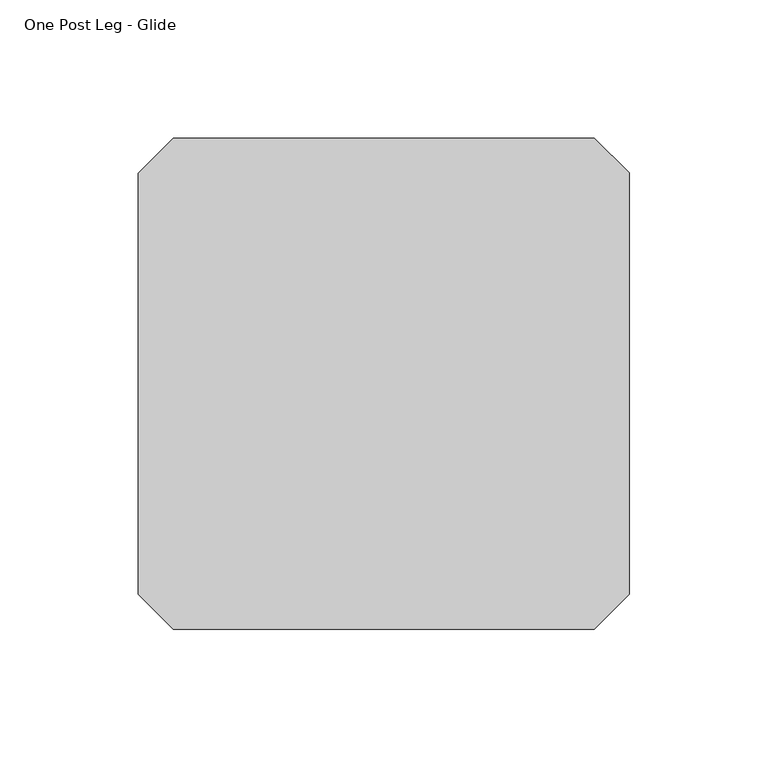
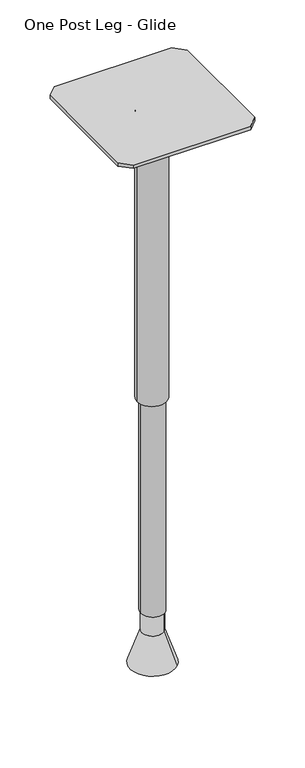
"""IFC4 building model written with IfcOpenShell, lengths in millimetres: furniture geometry, Steelcase - Groupwork - Table Leg - Post - Adjustable : One Post Leg - Glide."""

from ifc_helpers import new_model, si_unit, point, frame, frame_2d, origin, place, context, project, spatial, polyline, circle_curve, trimmed, segment, composite_curve, outline, extrude, source, transform, mapped, element, save
from ifc_brep_helpers import plane_surface, cylinder_surface, revolved_surface, advanced_brep


def one_post_leg_glide_20b29ec5(model_context):
    return source(origin(), model_context, "Body", "SolidModel", [
        extrude(outline(polyline([(88.8999907, -92.0423469), (76.2000028, -104.7423348), (-76.2000028, -104.7423348), (-88.9000032, -92.0423469), (-88.9000032, 60.3576588), (-76.2000028, 73.0576592), (76.2000028, 73.0576592), (88.8999907, 60.4556951), (88.8999907, -92.0423469)])), frame((0.0, 0.0, 757.4939814), z_axis=(0.0, 0.0, 1.0), x_axis=(1.0, 0.0, 0.0)), (0.0, 0.0, 1.0), 4.5060186),
        extrude(outline(composite_curve([segment(trimmed(circle_curve(frame_2d((-0.2500277, -14.7678046)), 19.05), [point((-19.3000277, -14.7678046))], [point((18.7999723, -14.7678046))], False, "CARTESIAN"), True, "CONTINUOUS"), segment(trimmed(circle_curve(frame_2d((-0.2500277, -14.7678046)), 19.05), [point((18.7999723, -14.7678046))], [point((-19.3000277, -14.7678046))], False, "CARTESIAN"), True, "CONTINUOUS")], self_intersect=False), holes=[composite_curve([segment(trimmed(circle_curve(frame_2d((-0.1070578, -14.7678046)), 16.7347744), [point((-16.8418322, -14.7678046))], [point((16.6277167, -14.7678046))], True, "CARTESIAN"), True, "CONTINUOUS"), segment(trimmed(circle_curve(frame_2d((-0.1070578, -14.7678046)), 16.7347744), [point((16.6277167, -14.7678046))], [point((-16.8418322, -14.7678046))], True, "CARTESIAN"), True, "CONTINUOUS")], self_intersect=False)]), frame((0.0, 0.0, 362.839), z_axis=(0.0, 0.0, 1.0), x_axis=(1.0, 0.0, 0.0)), (0.0, 0.0, 1.0), 394.6549814),
        advanced_brep(
        [(9.6968599, -25.4901858, 71.9077843), (-9.6968599, -6.096466, 71.9077843), (0.0, -15.7933259, 71.9077843), (9.6968599, -25.4901858, 44.5081099), (-9.6968599, -6.096466, 44.5081099), (20.454658, -36.2479839, 0.0), (-20.454658, 4.6613321, 0.0), (0.0, -15.7933259, 0.0)],
        [
            (0, 1, circle_curve(frame((0.0, -15.7933259, 71.9077843), z_axis=(0.0, 0.0, 1.0), x_axis=(-0.7071067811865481, 0.707106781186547, 0.0)), 13.7134307)),
            (1, 2),
            (2, 0),
            (1, 0, circle_curve(frame((0.0, -15.7933259, 71.9077843), z_axis=(0.0, 0.0, 1.0), x_axis=(-0.7071067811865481, 0.707106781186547, 0.0)), 13.7134307)),
            (3, 4, circle_curve(frame((0.0, -15.7933259, 44.5081099), z_axis=(0.0, 0.0, 1.0), x_axis=(-0.7071067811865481, 0.707106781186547, 0.0)), 13.7134307)),
            (4, 1),
            (0, 3),
            (4, 3, circle_curve(frame((0.0, -15.7933259, 44.5081099), z_axis=(0.0, 0.0, 1.0), x_axis=(-0.7071067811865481, 0.707106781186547, 0.0)), 13.7134307)),
            (5, 6, circle_curve(frame((0.0, -15.7933259, 0.0), z_axis=(0.0, 0.0, 1.0), x_axis=(-0.7071067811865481, 0.707106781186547, 0.0)), 28.9272548)),
            (6, 4),
            (3, 5),
            (6, 5, circle_curve(frame((0.0, -15.7933259, 0.0), z_axis=(0.0, 0.0, 1.0), x_axis=(-0.7071067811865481, 0.707106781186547, 0.0)), 28.9272548)),
            (7, 6),
            (5, 7),
        ],
        [
            plane_surface(frame((0.0, -15.7933259, 71.9077843), z_axis=(0.0, 0.0, 1.0000000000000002), x_axis=(-0.7071067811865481, 0.707106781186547, 0.0))),
            cylinder_surface(frame((0.0, -15.7933259, 71.9077843), z_axis=(0.0, 0.0, -1.0), x_axis=(-0.7071067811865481, 0.707106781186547, 0.0)), 13.7134307),
            revolved_surface(polyline([(-9.6968599, -6.096466, 44.5081099), (-20.454658, 4.6613321, 0.0)]), (0.0, -15.7933259, 71.9077843), (0.0, 0.0, -1.0)),
            plane_surface(frame((0.0, -15.7933259, 0.0), z_axis=(0.0, 0.0, -1.0000000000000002), x_axis=(-0.7071067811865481, 0.707106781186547, 0.0))),
        ],
        [
            (0, [[1, 2, 3]]),
            (0, [[4, -3, -2]]),
            (1, [[5, 6, -1, 7]]),
            (1, [[8, -7, -4, -6]]),
            (2, [[9, 10, -5, 11]]),
            (2, [[12, -11, -8, -10]]),
            (3, [[13, -9, 14]]),
            (3, [[-14, -12, -13]]),
        ],
    ),
        extrude(outline(composite_curve([segment(trimmed(circle_curve(frame_2d((0.0, -15.7933259)), 15.24), [point((-15.24, -15.7933259))], [point((15.24, -15.7933259))], False, "CARTESIAN"), True, "CONTINUOUS"), segment(trimmed(circle_curve(frame_2d((0.0, -15.7933259)), 15.24), [point((15.24, -15.7933259))], [point((-15.24, -15.7933259))], False, "CARTESIAN"), True, "CONTINUOUS")], self_intersect=False), holes=[composite_curve([segment(trimmed(circle_curve(frame_2d((0.0, -15.7933259)), 13.7134307), [point((-13.7134307, -15.7933259))], [point((13.7134307, -15.7933259))], True, "CARTESIAN"), True, "CONTINUOUS"), segment(trimmed(circle_curve(frame_2d((0.0, -15.7933259)), 13.7134307), [point((13.7134307, -15.7933259))], [point((-13.7134307, -15.7933259))], True, "CARTESIAN"), True, "CONTINUOUS")], self_intersect=False)]), frame((0.0, 0.0, 71.6852125), z_axis=(0.0, 0.0, 1.0), x_axis=(1.0, 0.0, 0.0)), (0.0, 0.0, 1.0), 291.1537875),
    ])


if __name__ == "__main__":
    model = new_model("IFC4")
    model_context = context("Model", 3, world=origin())
    ifc_project = project(units=[si_unit("LENGTHUNIT", "METRE", prefix="MILLI")], contexts=[model_context])
    site = spatial("IfcSite", under=ifc_project)
    building = spatial("IfcBuilding", under=site)
    placement = place(None, origin())
    one_post_leg_glide_shape = one_post_leg_glide_20b29ec5(model_context)
    element("IfcFurniture", 1, ObjectType="Steelcase - Groupwork - Table Leg - Post - Adjustable : One Post Leg - Glide", at=placement, inside=building, context=model_context, shape_type="MappedRepresentation", body=[
        mapped(one_post_leg_glide_shape, transform((0.0, 0.0, 0.0), x_axis=(1.0, 0.0, 0.0), y_axis=(0.0, 1.0, 0.0), z_axis=(0.0, 0.0, 1.0))),
    ])
    save(model, "model.ifc")
